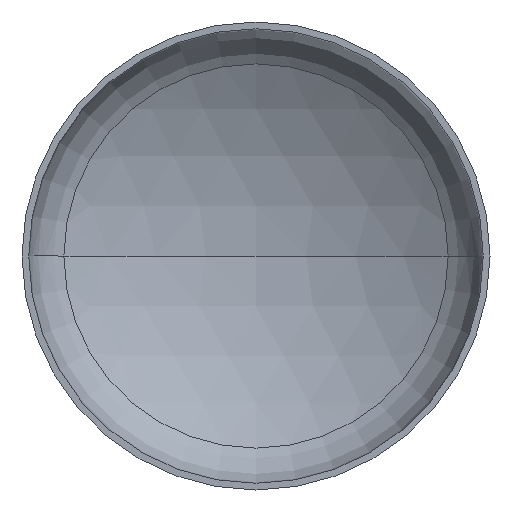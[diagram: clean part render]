
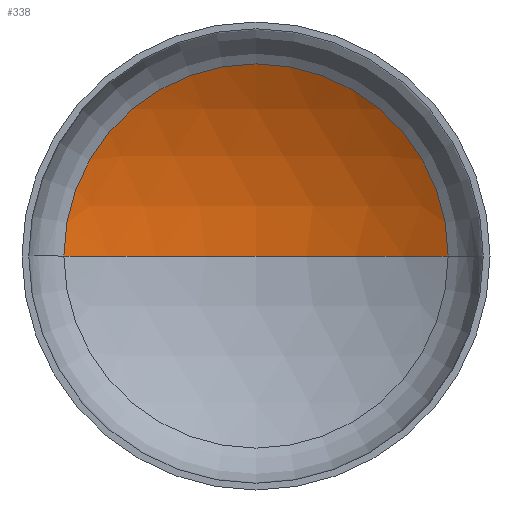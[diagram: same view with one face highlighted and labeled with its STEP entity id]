
A CAD part, front view. The second image highlights one B-rep face of the part: STEP entity #338.
In plain terms, the highlighted spherical face has radius 2880 mm.
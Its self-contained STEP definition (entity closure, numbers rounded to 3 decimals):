
#2 = AXIS2_PLACEMENT_3D ( 'NONE', #139, #231, #392 ) ;
#3 = AXIS2_PLACEMENT_3D ( 'NONE', #269, #271, #120 ) ;
#12 = AXIS2_PLACEMENT_3D ( 'NONE', #161, #144, #348 ) ;
#17 = AXIS2_PLACEMENT_3D ( 'NONE', #250, #319, #294 ) ;
#18 = EDGE_LOOP ( 'NONE', ( #32, #27, #22 ) ) ;
#22 = ORIENTED_EDGE ( 'NONE', *, *, #339, .T. ) ;
#24 = VERTEX_POINT ( 'NONE', #270 ) ;
#27 = ORIENTED_EDGE ( 'NONE', *, *, #387, .T. ) ;
#32 = ORIENTED_EDGE ( 'NONE', *, *, #381, .F. ) ;
#37 = SPHERICAL_SURFACE ( 'NONE', #12, 2880. ) ;
#98 = VERTEX_POINT ( 'NONE', #301 ) ;
#104 = VERTEX_POINT ( 'NONE', #218 ) ;
#120 = DIRECTION ( 'NONE',  ( 1., 0., 0. ) ) ;
#139 = CARTESIAN_POINT ( 'NONE',  ( 0., -1875.589, 0. ) ) ;
#144 = DIRECTION ( 'NONE',  ( 0., 0., -1. ) ) ;
#161 = CARTESIAN_POINT ( 'NONE',  ( 0., -1875.589, 0. ) ) ;
#180 = FACE_OUTER_BOUND ( 'NONE', #18, .T. ) ;
#218 = CARTESIAN_POINT ( 'NONE',  ( -1477.781, 596.366, 0. ) ) ;
#231 = DIRECTION ( 'NONE',  ( 0., 0., -1. ) ) ;
#250 = CARTESIAN_POINT ( 'NONE',  ( 0., 596.366, 0. ) ) ;
#269 = CARTESIAN_POINT ( 'NONE',  ( 0., -1875.589, 0. ) ) ;
#270 = CARTESIAN_POINT ( 'NONE',  ( 0., 1004.411, 0. ) ) ;
#271 = DIRECTION ( 'NONE',  ( 0., 0., 1. ) ) ;
#294 = DIRECTION ( 'NONE',  ( 1., 0., 0. ) ) ;
#301 = CARTESIAN_POINT ( 'NONE',  ( 1477.781, 596.366, 0. ) ) ;
#319 = DIRECTION ( 'NONE',  ( 0., -1., 0. ) ) ;
#338 = ADVANCED_FACE ( 'NONE', ( #180 ), #37, .F. ) ;
#339 = EDGE_CURVE ( 'NONE', #98, #104, #362, .T. ) ;
#348 = DIRECTION ( 'NONE',  ( -1., 0., 0. ) ) ;
#350 = CIRCLE ( 'NONE', #2, 2880. ) ;
#358 = CIRCLE ( 'NONE', #3, 2880. ) ;
#362 = CIRCLE ( 'NONE', #17, 1477.781 ) ;
#381 = EDGE_CURVE ( 'NONE', #24, #104, #358, .T. ) ;
#387 = EDGE_CURVE ( 'NONE', #24, #98, #350, .T. ) ;
#392 = DIRECTION ( 'NONE',  ( -1., 0., 0. ) ) ;
